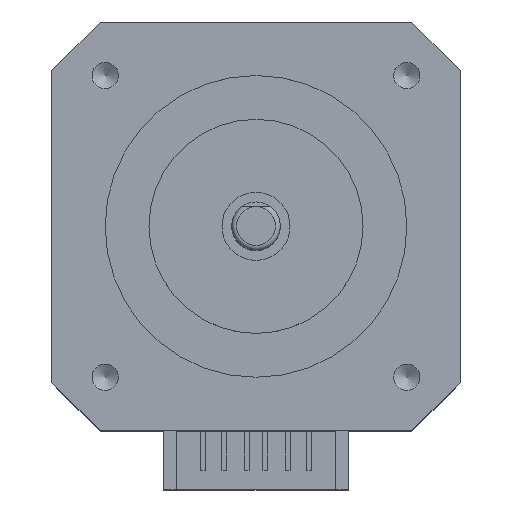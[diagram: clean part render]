
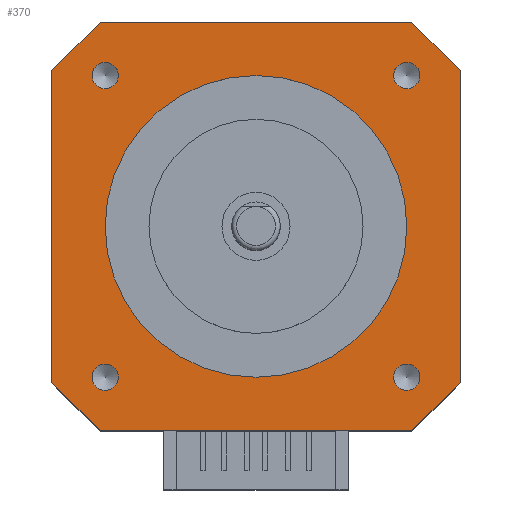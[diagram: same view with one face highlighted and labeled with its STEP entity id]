
A CAD part, top view. The second image highlights one B-rep face of the part: STEP entity #370.
In plain terms, the highlighted planar face has unit normal (0, 0, 1).
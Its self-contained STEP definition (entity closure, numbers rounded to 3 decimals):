
#116=PLANE('',#2821);
#370=ADVANCED_FACE('',(#1182,#1183,#1184,#1185,#1186,#1187),#116,.F.);
#615=LINE('',#3905,#930);
#616=LINE('',#3908,#931);
#617=LINE('',#3910,#932);
#618=LINE('',#3912,#933);
#619=LINE('',#3914,#934);
#620=LINE('',#3916,#935);
#621=LINE('',#3918,#936);
#622=LINE('',#3920,#937);
#930=VECTOR('',#3122,1.);
#931=VECTOR('',#3123,1.);
#932=VECTOR('',#3124,1.);
#933=VECTOR('',#3125,1.);
#934=VECTOR('',#3126,1.);
#935=VECTOR('',#3127,1.);
#936=VECTOR('',#3128,1.);
#937=VECTOR('',#3129,1.);
#1182=FACE_BOUND('',#1272,.T.);
#1183=FACE_BOUND('',#1273,.T.);
#1184=FACE_BOUND('',#1274,.T.);
#1185=FACE_BOUND('',#1275,.T.);
#1186=FACE_BOUND('',#1276,.T.);
#1187=FACE_BOUND('',#1277,.T.);
#1272=EDGE_LOOP('',(#1550));
#1273=EDGE_LOOP('',(#1551));
#1274=EDGE_LOOP('',(#1552));
#1275=EDGE_LOOP('',(#1553));
#1276=EDGE_LOOP('',(#1554,#1555,#1556,#1557,#1558,#1559,#1560,#1561));
#1277=EDGE_LOOP('',(#1562));
#1550=ORIENTED_EDGE('',*,*,#2503,.T.);
#1551=ORIENTED_EDGE('',*,*,#2504,.T.);
#1552=ORIENTED_EDGE('',*,*,#2505,.T.);
#1553=ORIENTED_EDGE('',*,*,#2506,.T.);
#1554=ORIENTED_EDGE('',*,*,#2507,.F.);
#1555=ORIENTED_EDGE('',*,*,#2508,.T.);
#1556=ORIENTED_EDGE('',*,*,#2509,.F.);
#1557=ORIENTED_EDGE('',*,*,#2510,.T.);
#1558=ORIENTED_EDGE('',*,*,#2511,.F.);
#1559=ORIENTED_EDGE('',*,*,#2512,.T.);
#1560=ORIENTED_EDGE('',*,*,#2513,.F.);
#1561=ORIENTED_EDGE('',*,*,#2514,.T.);
#1562=ORIENTED_EDGE('',*,*,#2515,.T.);
#2249=VERTEX_POINT('',#3898);
#2250=VERTEX_POINT('',#3900);
#2251=VERTEX_POINT('',#3902);
#2252=VERTEX_POINT('',#3904);
#2253=VERTEX_POINT('',#3906);
#2254=VERTEX_POINT('',#3907);
#2255=VERTEX_POINT('',#3909);
#2256=VERTEX_POINT('',#3911);
#2257=VERTEX_POINT('',#3913);
#2258=VERTEX_POINT('',#3915);
#2259=VERTEX_POINT('',#3917);
#2260=VERTEX_POINT('',#3919);
#2261=VERTEX_POINT('',#3922);
#2503=EDGE_CURVE('',#2249,#2249,#2770,.T.);
#2504=EDGE_CURVE('',#2250,#2250,#2771,.T.);
#2505=EDGE_CURVE('',#2251,#2251,#2772,.T.);
#2506=EDGE_CURVE('',#2252,#2252,#2773,.T.);
#2507=EDGE_CURVE('',#2253,#2254,#615,.T.);
#2508=EDGE_CURVE('',#2253,#2255,#616,.T.);
#2509=EDGE_CURVE('',#2256,#2255,#617,.T.);
#2510=EDGE_CURVE('',#2256,#2257,#618,.T.);
#2511=EDGE_CURVE('',#2258,#2257,#619,.T.);
#2512=EDGE_CURVE('',#2258,#2259,#620,.T.);
#2513=EDGE_CURVE('',#2260,#2259,#621,.T.);
#2514=EDGE_CURVE('',#2260,#2254,#622,.T.);
#2515=EDGE_CURVE('',#2261,#2261,#2774,.T.);
#2770=CIRCLE('',#2816,1.35);
#2771=CIRCLE('',#2817,1.35);
#2772=CIRCLE('',#2818,1.35);
#2773=CIRCLE('',#2819,1.35);
#2774=CIRCLE('',#2820,15.5);
#2816=AXIS2_PLACEMENT_3D('',#3897,#3114,#3115);
#2817=AXIS2_PLACEMENT_3D('',#3899,#3116,#3117);
#2818=AXIS2_PLACEMENT_3D('',#3901,#3118,#3119);
#2819=AXIS2_PLACEMENT_3D('',#3903,#3120,#3121);
#2820=AXIS2_PLACEMENT_3D('',#3921,#3130,#3131);
#2821=AXIS2_PLACEMENT_3D('',#3923,#3132,#3133);
#3114=DIRECTION('',(0.,0.,-1.));
#3115=DIRECTION('',(-1.,0.,0.));
#3116=DIRECTION('',(0.,0.,-1.));
#3117=DIRECTION('',(-1.,0.,0.));
#3118=DIRECTION('',(0.,0.,-1.));
#3119=DIRECTION('',(-1.,0.,0.));
#3120=DIRECTION('',(0.,0.,-1.));
#3121=DIRECTION('',(-1.,0.,0.));
#3122=DIRECTION('',(1.,0.,0.));
#3123=DIRECTION('',(-0.707,-0.707,0.));
#3124=DIRECTION('',(0.,1.,0.));
#3125=DIRECTION('',(0.707,-0.707,0.));
#3126=DIRECTION('',(-1.,0.,0.));
#3127=DIRECTION('',(0.707,0.707,0.));
#3128=DIRECTION('',(0.,-1.,0.));
#3129=DIRECTION('',(-0.707,0.707,0.));
#3130=DIRECTION('',(0.,0.,-1.));
#3131=DIRECTION('',(1.,0.,0.));
#3132=DIRECTION('',(0.,0.,-1.));
#3133=DIRECTION('',(-1.,0.,0.));
#3897=CARTESIAN_POINT('',(15.5,-15.5,0.));
#3898=CARTESIAN_POINT('',(14.15,-15.5,0.));
#3899=CARTESIAN_POINT('',(15.5,15.5,0.));
#3900=CARTESIAN_POINT('',(14.15,15.5,0.));
#3901=CARTESIAN_POINT('',(-15.5,15.5,0.));
#3902=CARTESIAN_POINT('',(-16.85,15.5,0.));
#3903=CARTESIAN_POINT('',(-15.5,-15.5,0.));
#3904=CARTESIAN_POINT('',(-16.85,-15.5,0.));
#3905=CARTESIAN_POINT('',(-21.,21.,0.));
#3906=CARTESIAN_POINT('',(-16.,21.,0.));
#3907=CARTESIAN_POINT('',(16.,21.,0.));
#3908=CARTESIAN_POINT('',(-16.,21.,0.));
#3909=CARTESIAN_POINT('',(-21.,16.,0.));
#3910=CARTESIAN_POINT('',(-21.,-21.,0.));
#3911=CARTESIAN_POINT('',(-21.,-16.,0.));
#3912=CARTESIAN_POINT('',(-21.,-16.,0.));
#3913=CARTESIAN_POINT('',(-16.,-21.,0.));
#3914=CARTESIAN_POINT('',(21.,-21.,0.));
#3915=CARTESIAN_POINT('',(16.,-21.,0.));
#3916=CARTESIAN_POINT('',(16.,-21.,0.));
#3917=CARTESIAN_POINT('',(21.,-16.,0.));
#3918=CARTESIAN_POINT('',(21.,21.,0.));
#3919=CARTESIAN_POINT('',(21.,16.,0.));
#3920=CARTESIAN_POINT('',(21.,16.,0.));
#3921=CARTESIAN_POINT('',(0.,0.,0.));
#3922=CARTESIAN_POINT('',(15.5,0.,0.));
#3923=CARTESIAN_POINT('',(-21.,-21.,0.));
